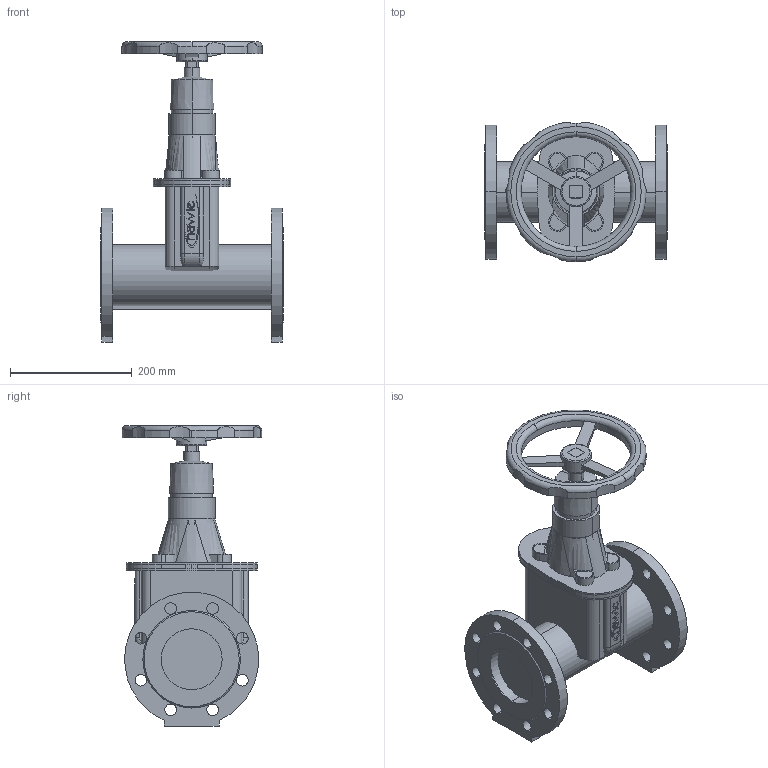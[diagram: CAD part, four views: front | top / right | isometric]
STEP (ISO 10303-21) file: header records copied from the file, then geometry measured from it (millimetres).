
FILE_DESCRIPTION(('STEP AP214'),'1');
FILE_NAME('S:/EK/USER/CAT6/3DHomepage/4700E2/4700E2-PN16-DN100-HANDRAD.STP','2012-04-23T12:23:05',(' '),(' '),'Spatial InterOp 3D',' ',' ');
FILE_SCHEMA(('automotive_design'));
Length unit declared in the file: millimetre
Products named in the file (49): 3D-Objekt
Bounding box: 300 x 228.67 x 493 mm (x, y, z)
Volume: 6704801.1 mm3; surface area: 851314.7 mm2
Topology: 49 solids, 49 shells, 512 faces, 1228 edges, 820 vertices
Faces by surface type: plane 264, cylinder 214, torus 12, bspline 12, cone 10
Entity records: 20797 total; most frequent: CARTESIAN_POINT 3099, DIRECTION 2826, ORIENTED_EDGE 2456, EDGE_CURVE 1228, AXIS2_PLACEMENT_3D 1059, VERTEX_POINT 820, LINE 708, VECTOR 708
